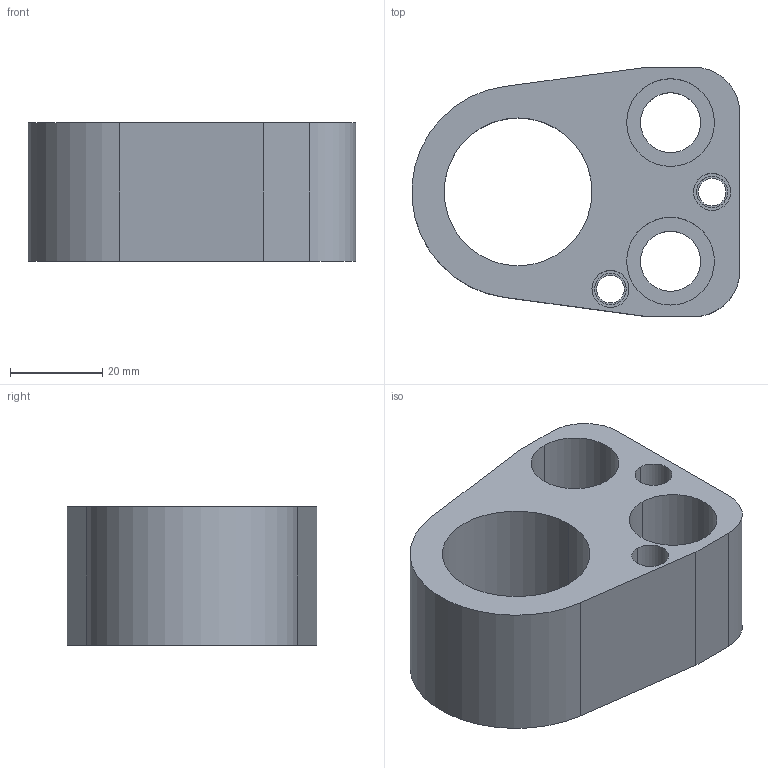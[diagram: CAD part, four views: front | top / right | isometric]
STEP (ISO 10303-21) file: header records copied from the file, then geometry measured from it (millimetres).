
FILE_DESCRIPTION(/* description */ (''),/* implementation_level */ '2;1');
FILE_NAME(/* name */ '3d_cp-an32_03580_r00.stp',/* time_stamp */ '2011-01-10T14:16:30+09:00',/* author */ ('MISUMI'),/* organization */ (''),/* preprocessor_version */ 'ST-DEVELOPER v11',/* originating_system */ 'UGS - NX 5.0',/* authorisation */ '');
FILE_SCHEMA (('CONFIG_CONTROL_DESIGN'));
Length unit declared in the file: millimetre
Products named in the file (1): 3d_cp-an32_03580_r00
Bounding box: 70.92 x 54 x 30 mm (x, y, z)
Volume: 58539.4 mm3; surface area: 18087.4 mm2
Topology: 1 solids, 1 shells, 43 faces, 100 edges, 66 vertices
Faces by surface type: cylinder 27, plane 14, cone 2
Entity records: 1360 total; most frequent: DIRECTION 244, CARTESIAN_POINT 210, ORIENTED_EDGE 200, EDGE_CURVE 100, AXIS2_PLACEMENT_3D 100, VERTEX_POINT 66, EDGE_LOOP 60, CIRCLE 56
